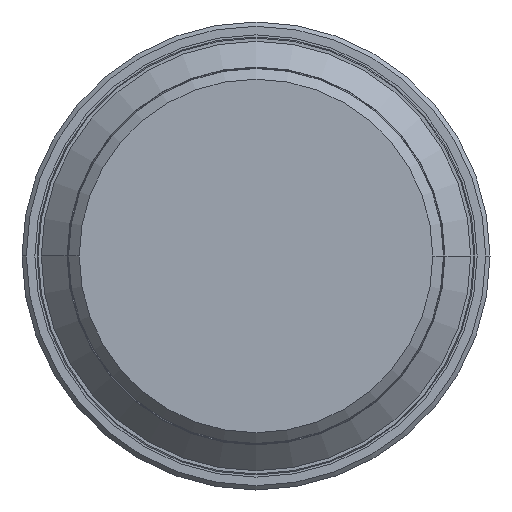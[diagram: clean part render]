
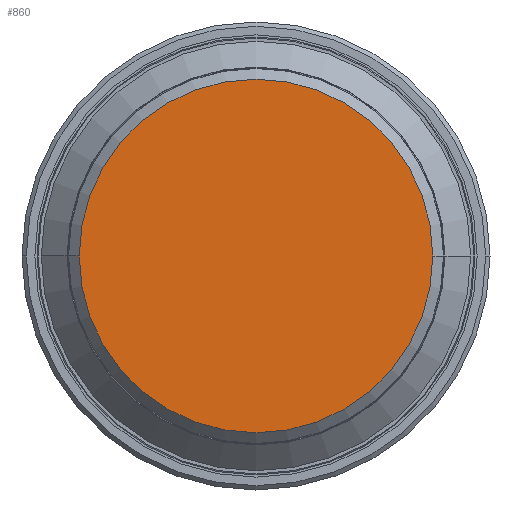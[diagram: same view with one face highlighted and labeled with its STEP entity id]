
A CAD part, front view. The second image highlights one B-rep face of the part: STEP entity #860.
In plain terms, the highlighted planar face has unit normal (0, -1, 0).
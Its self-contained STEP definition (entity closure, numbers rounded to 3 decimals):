
#860 = ADVANCED_FACE( '', ( #2233 ), #2234, .T. );
#1294 = VERTEX_POINT( '', #2715 );
#1628 = EDGE_CURVE( '', #1918, #1294, #3092, .T. );
#1914 = EDGE_CURVE( '', #1294, #1918, #3412, .T. );
#1918 = VERTEX_POINT( '', #3416 );
#2233 = FACE_OUTER_BOUND( '', #3827, .T. );
#2234 = PLANE( '', #3828 );
#2715 = CARTESIAN_POINT( '', ( -8.235, -50.5, 0. ) );
#3092 = CIRCLE( '', #5145, 8.235 );
#3412 = CIRCLE( '', #5609, 8.235 );
#3416 = CARTESIAN_POINT( '', ( 8.235, -50.5, 0. ) );
#3827 = EDGE_LOOP( '', ( #5977, #5978 ) );
#3828 = AXIS2_PLACEMENT_3D( '', #5979, #5980, #5981 );
#5145 = AXIS2_PLACEMENT_3D( '', #7085, #7086, #7087 );
#5609 = AXIS2_PLACEMENT_3D( '', #7494, #7495, #7496 );
#5977 = ORIENTED_EDGE( '', *, *, #1628, .F. );
#5978 = ORIENTED_EDGE( '', *, *, #1914, .F. );
#5979 = CARTESIAN_POINT( '', ( 4.118, -50.5, 0. ) );
#5980 = DIRECTION( '', ( 0., -1., 0. ) );
#5981 = DIRECTION( '', ( -1., 0., 0. ) );
#7085 = CARTESIAN_POINT( '', ( 0., -50.5, 0. ) );
#7086 = DIRECTION( '', ( 0., 1., 0. ) );
#7087 = DIRECTION( '', ( 1., 0., 0. ) );
#7494 = CARTESIAN_POINT( '', ( 0., -50.5, 0. ) );
#7495 = DIRECTION( '', ( 0., 1., 0. ) );
#7496 = DIRECTION( '', ( 1., 0., 0. ) );
